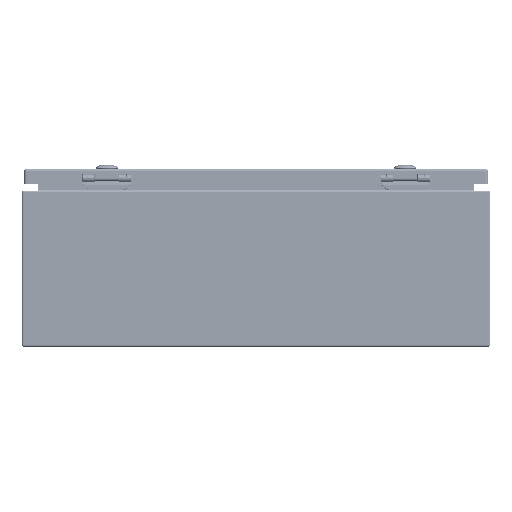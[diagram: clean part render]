
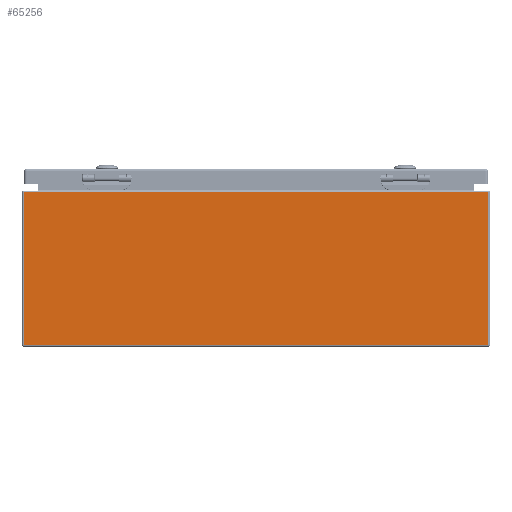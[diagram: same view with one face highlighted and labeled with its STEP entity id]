
A CAD part, left-side view. The second image highlights one B-rep face of the part: STEP entity #65256.
In plain terms, the highlighted planar face has unit normal (-1, 0, 0).
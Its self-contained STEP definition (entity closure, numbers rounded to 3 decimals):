
#6335=LINE('',#91399,#10370);
#6346=LINE('',#91440,#10381);
#6350=LINE('',#91455,#10385);
#6351=LINE('',#91456,#10386);
#10370=VECTOR('',#75956,0.394);
#10381=VECTOR('',#76005,0.394);
#10385=VECTOR('',#76023,0.394);
#10386=VECTOR('',#76024,0.394);
#15446=FACE_OUTER_BOUND('',#19454,.T.);
#19454=EDGE_LOOP('',(#43407,#43408,#43409,#43410));
#26153=VERTEX_POINT('',#91392);
#26154=VERTEX_POINT('',#91397);
#26165=VERTEX_POINT('',#91439);
#26169=VERTEX_POINT('',#91454);
#32822=EDGE_CURVE('',#26154,#26153,#6335,.T.);
#32842=EDGE_CURVE('',#26153,#26165,#6346,.T.);
#32850=EDGE_CURVE('',#26169,#26154,#6350,.T.);
#32851=EDGE_CURVE('',#26169,#26165,#6351,.T.);
#43407=ORIENTED_EDGE('',*,*,#32822,.F.);
#43408=ORIENTED_EDGE('',*,*,#32850,.F.);
#43409=ORIENTED_EDGE('',*,*,#32851,.T.);
#43410=ORIENTED_EDGE('',*,*,#32842,.F.);
#63860=PLANE('',#70159);
#65256=ADVANCED_FACE('',(#15446),#63860,.F.);
#70159=AXIS2_PLACEMENT_3D('',#91453,#76021,#76022);
#75956=DIRECTION('',(0.,-1.,0.));
#76005=DIRECTION('',(0.,0.,-1.));
#76021=DIRECTION('center_axis',(1.,0.,0.));
#76022=DIRECTION('ref_axis',(0.,0.,-1.));
#76023=DIRECTION('',(0.,0.,1.));
#76024=DIRECTION('',(0.,-1.,0.));
#91392=CARTESIAN_POINT('',(-15.,-11.916,7.916));
#91397=CARTESIAN_POINT('',(-15.,11.916,7.916));
#91399=CARTESIAN_POINT('',(-15.,-5.979,7.916));
#91439=CARTESIAN_POINT('',(-15.,-11.916,0.084));
#91440=CARTESIAN_POINT('',(-15.,-11.916,4.));
#91453=CARTESIAN_POINT('Origin',(-15.,0.,4.));
#91454=CARTESIAN_POINT('',(-15.,11.916,0.084));
#91455=CARTESIAN_POINT('',(-15.,11.916,4.));
#91456=CARTESIAN_POINT('',(-15.,6.,0.084));
